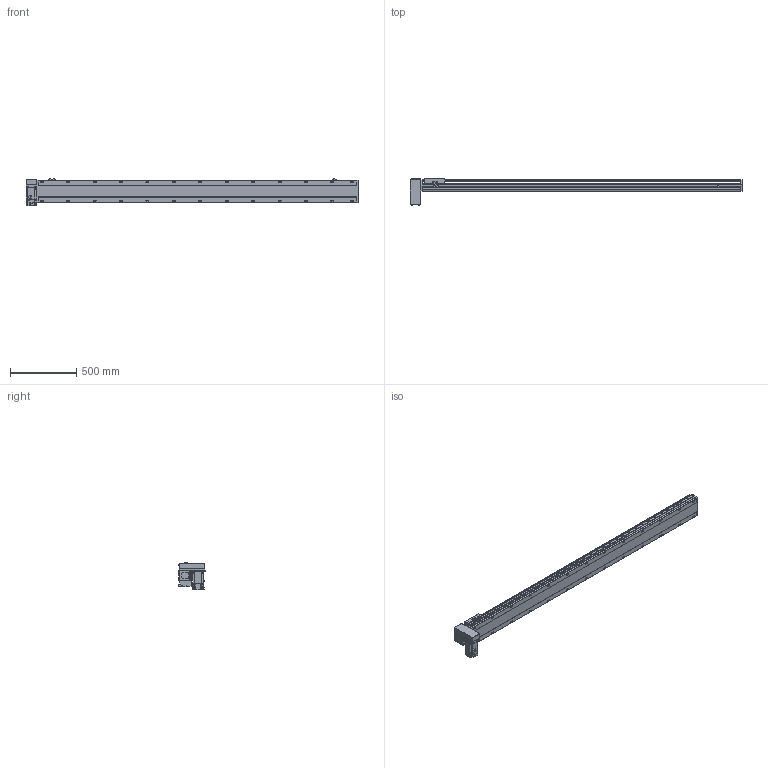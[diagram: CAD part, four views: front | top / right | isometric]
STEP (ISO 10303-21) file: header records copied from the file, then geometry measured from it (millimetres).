
FILE_DESCRIPTION(/* description */ ('STEP AP214'),/* implementation_level */ '2;1');
FILE_NAME(/* name */ 'PBS170-P40-S2150-RD-T75-C1-N(0)',/* time_stamp */ '2022-06-08T07:37:15+02:00',/* author */ ('License CC BY-ND 4.0'),/* organization */ ('CADENAS'),/* preprocessor_version */ 'ST-DEVELOPER v18.102',/* originating_system */ 'PARTsolutions',/* authorisation */ ' ');
FILE_SCHEMA (('AUTOMOTIVE_DESIGN {1 0 10303 214 3 1 1}'));
Length unit declared in the file: millimetre
Products named in the file (7): PBS170-P40-S2150-RD-T75-C1-N(0); PBS170_sensor; PBS170_plant; PBS170_sliser; T75-p1; PBS170T-RD_motors; PBS170-S2150()_body
Assembly tree (8 placements, depth 2):
  PBS170-P40-S2150-RD-T75-C1-N(0)
    PBS170_sensor  x3
    PBS170_plant
    PBS170_sliser
    T75-p1
    PBS170T-RD_motors
    PBS170-S2150()_body
Bounding box: 2513 x 201 x 205.3 mm (x, y, z)
Volume: 19185098.4 mm3; surface area: 2428560.4 mm2
Topology: 8 solids, 8 shells, 1162 faces, 3075 edges, 2004 vertices
Faces by surface type: plane 717, cylinder 379, cone 56, sphere 8, torus 2
Full cylindrical faces by diameter (mm): 3.242 x4, 4 x2, 4.4 x4, 4.5 x6, 4.917 x4, 6 x9, 6.647 x34, 7 x2, 7.5 x4, 8 x8, 8.5 x26, 10 x4, 10.5 x26, 11 x2, 30 x2, 40 x1, 70 x1
Entity records: 33408 total; most frequent: CARTESIAN_POINT 6273, DIRECTION 5650, ORIENTED_EDGE 5328, EDGE_CURVE 2664, AXIS2_PLACEMENT_3D 1987, VERTEX_POINT 1850, LINE 1676, VECTOR 1676
